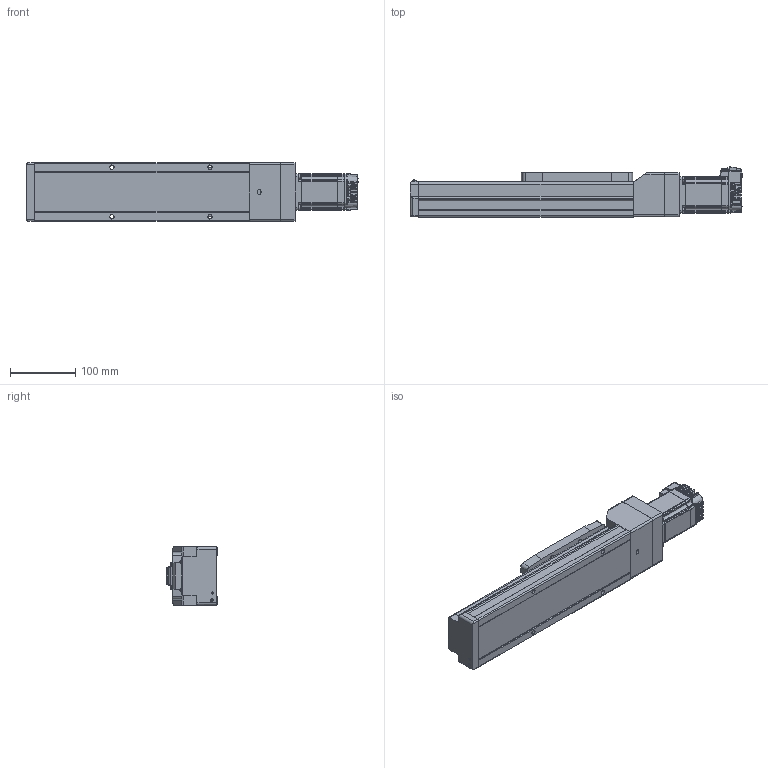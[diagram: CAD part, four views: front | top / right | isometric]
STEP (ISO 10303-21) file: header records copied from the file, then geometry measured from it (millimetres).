
FILE_DESCRIPTION (( 'STEP AP214' ), '1' );
FILE_NAME ('LEFS3(+)-40NM1仩-150-23L.STEP', '2023-06-02T04:58:33', ( '' ), ( '' ), 'SwSTEP 2.0', 'SolidWorks 2019', '' );
FILE_SCHEMA (( 'AUTOMOTIVE_DESIGN' ));
Length unit declared in the file: millimetre
Products named in the file (5): CM3(+)-23L50A_4-M4; LEFS3(+)-40NM1仩-150-23L; LEFS3(+)-40NM1_TABLE; LEFS3(+)-40NM1?_BODY_150; LEFS3(+)-40NM1_Motor Flange
Assembly tree (4 placements, depth 2):
  LEFS3(+)-40NM1仩-150-23L
    LEFS3(+)-40NM1?_BODY_150
    LEFS3(+)-40NM1_TABLE
    LEFS3(+)-40NM1_Motor Flange
    CM3(+)-23L50A_4-M4
Bounding box: 507.6 x 76.75 x 90 mm (x, y, z)
Volume: 2222957.5 mm3; surface area: 230216.9 mm2
Topology: 5 solids, 14 shells, 1642 faces, 4257 edges, 2632 vertices
Faces by surface type: plane 764, cylinder 507, bspline 133, cone 117, torus 74, sphere 47
Entity records: 55629 total; most frequent: CARTESIAN_POINT 13937, ORIENTED_EDGE 8364, DIRECTION 7782, EDGE_CURVE 4182, AXIS2_PLACEMENT_3D 2640, VERTEX_POINT 2632, LINE 2502, VECTOR 2502
